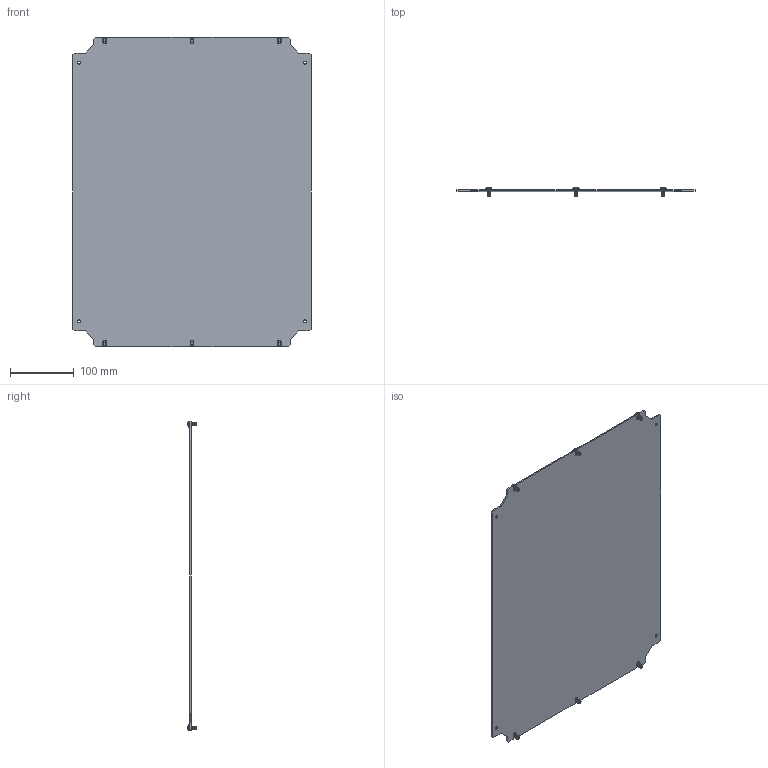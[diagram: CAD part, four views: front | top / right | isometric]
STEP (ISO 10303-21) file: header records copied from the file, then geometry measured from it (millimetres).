
FILE_DESCRIPTION (( 'STEP AP214' ), '1' );
FILE_NAME ('943.245--DM Small 400 W x 500 H Mounting Plate.STEP', '2020-12-03T10:25:46', ( '' ), ( '' ), 'SwSTEP 2.0', 'SolidWorks 2019', '' );
FILE_SCHEMA (( 'AUTOMOTIVE_DESIGN' ));
Length unit declared in the file: millimetre
Products named in the file (10): M5x10; M5x10_ISO 7045 - M5 x 10 - Z --- 10C; DM Small Montaj Plakasi 2mm; DM Small Montaj Plakasi 2mm_PP 20.0110 - 400x500; 943.245--DM Small 400 W x 500 H Mounting Plate
Assembly tree (7 placements, depth 2):
  M5x10
  M5x10
  M5x10
  M5x10
  DM Small Montaj Plakasi 2mm
Bounding box: 373 x 13.63 x 485.12 mm (x, y, z)
Volume: 357167.4 mm3; surface area: 361380.8 mm2
Topology: 7 solids, 7 shells, 673 faces, 1773 edges, 1108 vertices
Faces by surface type: cone 312, cylinder 173, plane 152, torus 24, sphere 12
Entity records: 5477 total; most frequent: DIRECTION 977, CARTESIAN_POINT 922, ORIENTED_EDGE 882, EDGE_CURVE 441, AXIS2_PLACEMENT_3D 370, VERTEX_POINT 283, LINE 237, VECTOR 237
